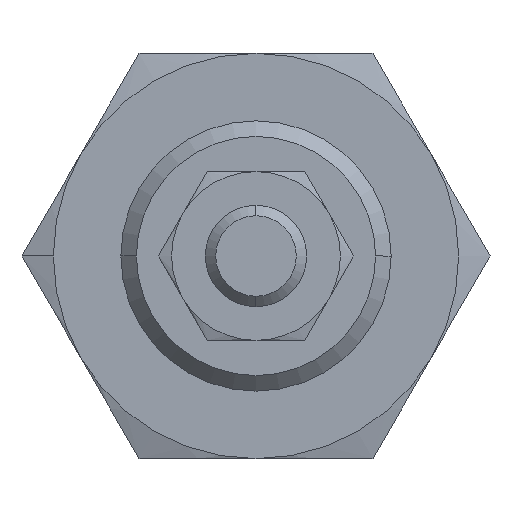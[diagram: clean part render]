
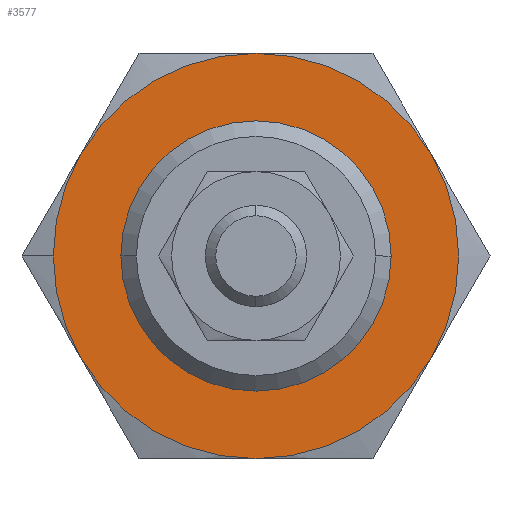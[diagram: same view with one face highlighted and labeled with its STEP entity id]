
A CAD part, left-side view. The second image highlights one B-rep face of the part: STEP entity #3577.
In plain terms, the highlighted planar face has unit normal (-1, 0, 0).
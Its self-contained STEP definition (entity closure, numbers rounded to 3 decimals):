
#1 = VERTEX_POINT ( 'NONE', #2930 ) ;
#13 = AXIS2_PLACEMENT_3D ( 'NONE', #2985, #4288, #640 ) ;
#29 = VERTEX_POINT ( 'NONE', #2954 ) ;
#86 = ORIENTED_EDGE ( 'NONE', *, *, #2826, .F. ) ;
#138 = CARTESIAN_POINT ( 'NONE',  ( -13.5, 0., 0. ) ) ;
#232 = AXIS2_PLACEMENT_3D ( 'NONE', #3024, #3438, #4085 ) ;
#251 = DIRECTION ( 'NONE',  ( 0., 1., 0. ) ) ;
#342 = AXIS2_PLACEMENT_3D ( 'NONE', #638, #658, #1661 ) ;
#613 = DIRECTION ( 'NONE',  ( 0., 1., 0. ) ) ;
#635 = ORIENTED_EDGE ( 'NONE', *, *, #1942, .F. ) ;
#638 = CARTESIAN_POINT ( 'NONE',  ( -13.5, 0., 0. ) ) ;
#640 = DIRECTION ( 'NONE',  ( 0., 1., 0. ) ) ;
#658 = DIRECTION ( 'NONE',  ( 1., 0., 0. ) ) ;
#668 = EDGE_LOOP ( 'NONE', ( #3554, #86, #1396, #635, #684, #2188, #1127 ) ) ;
#684 = ORIENTED_EDGE ( 'NONE', *, *, #2610, .F. ) ;
#1127 = ORIENTED_EDGE ( 'NONE', *, *, #3377, .F. ) ;
#1186 = CARTESIAN_POINT ( 'NONE',  ( -13.5, 12., 0. ) ) ;
#1396 = ORIENTED_EDGE ( 'NONE', *, *, #4065, .F. ) ;
#1404 = AXIS2_PLACEMENT_3D ( 'NONE', #1186, #4132, #3158 ) ;
#1413 = VERTEX_POINT ( 'NONE', #3555 ) ;
#1509 = DIRECTION ( 'NONE',  ( 1., 0., 0. ) ) ;
#1543 = AXIS2_PLACEMENT_3D ( 'NONE', #3931, #4192, #613 ) ;
#1551 = DIRECTION ( 'NONE',  ( 1., 0., 0. ) ) ;
#1651 = VERTEX_POINT ( 'NONE', #3199 ) ;
#1656 = VERTEX_POINT ( 'NONE', #2157 ) ;
#1661 = DIRECTION ( 'NONE',  ( 0., 1., 0. ) ) ;
#1782 = VERTEX_POINT ( 'NONE', #4119 ) ;
#1827 = EDGE_CURVE ( 'NONE', #3083, #1782, #3999, .T. ) ;
#1834 = FACE_BOUND ( 'NONE', #3773, .T. ) ;
#1936 = CIRCLE ( 'NONE', #3254, 12. ) ;
#1942 = EDGE_CURVE ( 'NONE', #1651, #1413, #3100, .T. ) ;
#1955 = CIRCLE ( 'NONE', #13, 12. ) ;
#2098 = CIRCLE ( 'NONE', #232, 12. ) ;
#2129 = DIRECTION ( 'NONE',  ( 1., 0., 0. ) ) ;
#2157 = CARTESIAN_POINT ( 'NONE',  ( -13.5, -8., 0. ) ) ;
#2161 = AXIS2_PLACEMENT_3D ( 'NONE', #2222, #2540, #251 ) ;
#2177 = DIRECTION ( 'NONE',  ( 0., 1., 0. ) ) ;
#2188 = ORIENTED_EDGE ( 'NONE', *, *, #4089, .F. ) ;
#2222 = CARTESIAN_POINT ( 'NONE',  ( -13.5, 0., 0. ) ) ;
#2256 = CARTESIAN_POINT ( 'NONE',  ( -13.5, 0., 0. ) ) ;
#2461 = FACE_OUTER_BOUND ( 'NONE', #668, .T. ) ;
#2482 = AXIS2_PLACEMENT_3D ( 'NONE', #2494, #1551, #3528 ) ;
#2494 = CARTESIAN_POINT ( 'NONE',  ( -13.5, 0., 0. ) ) ;
#2514 = CARTESIAN_POINT ( 'NONE',  ( -13.5, 0., 12. ) ) ;
#2540 = DIRECTION ( 'NONE',  ( 1., 0., 0. ) ) ;
#2556 = ORIENTED_EDGE ( 'NONE', *, *, #3733, .T. ) ;
#2610 = EDGE_CURVE ( 'NONE', #3045, #1651, #2098, .T. ) ;
#2709 = AXIS2_PLACEMENT_3D ( 'NONE', #138, #2129, #3454 ) ;
#2806 = PLANE ( 'NONE',  #1404 ) ;
#2826 = EDGE_CURVE ( 'NONE', #4036, #3083, #1936, .T. ) ;
#2930 = CARTESIAN_POINT ( 'NONE',  ( -13.5, 8., 0. ) ) ;
#2954 = CARTESIAN_POINT ( 'NONE',  ( -13.5, 10.392, 6. ) ) ;
#2985 = CARTESIAN_POINT ( 'NONE',  ( -13.5, 0., 0. ) ) ;
#3024 = CARTESIAN_POINT ( 'NONE',  ( -13.5, 0., 0. ) ) ;
#3045 = VERTEX_POINT ( 'NONE', #2514 ) ;
#3083 = VERTEX_POINT ( 'NONE', #3119 ) ;
#3100 = CIRCLE ( 'NONE', #3384, 12. ) ;
#3104 = CARTESIAN_POINT ( 'NONE',  ( -13.5, 0., -12. ) ) ;
#3119 = CARTESIAN_POINT ( 'NONE',  ( -13.5, 10.392, -6. ) ) ;
#3157 = CARTESIAN_POINT ( 'NONE',  ( -13.5, 0., 0. ) ) ;
#3158 = DIRECTION ( 'NONE',  ( 0., 1., 0. ) ) ;
#3190 = DIRECTION ( 'NONE',  ( 0., 1., 0. ) ) ;
#3199 = CARTESIAN_POINT ( 'NONE',  ( -13.5, -10.392, 6. ) ) ;
#3254 = AXIS2_PLACEMENT_3D ( 'NONE', #2256, #3564, #3190 ) ;
#3377 = EDGE_CURVE ( 'NONE', #1782, #29, #4219, .T. ) ;
#3384 = AXIS2_PLACEMENT_3D ( 'NONE', #3157, #1509, #2177 ) ;
#3438 = DIRECTION ( 'NONE',  ( 1., 0., 0. ) ) ;
#3454 = DIRECTION ( 'NONE',  ( 0., 1., 0. ) ) ;
#3528 = DIRECTION ( 'NONE',  ( 0., 1., 0. ) ) ;
#3554 = ORIENTED_EDGE ( 'NONE', *, *, #1827, .F. ) ;
#3555 = CARTESIAN_POINT ( 'NONE',  ( -13.5, -10.392, -6. ) ) ;
#3564 = DIRECTION ( 'NONE',  ( 1., 0., 0. ) ) ;
#3577 = ADVANCED_FACE ( 'NONE', ( #2461, #1834 ), #2806, .T. ) ;
#3655 = ORIENTED_EDGE ( 'NONE', *, *, #3700, .T. ) ;
#3691 = CIRCLE ( 'NONE', #2709, 12. ) ;
#3700 = EDGE_CURVE ( 'NONE', #1, #1656, #3895, .T. ) ;
#3733 = EDGE_CURVE ( 'NONE', #1656, #1, #3829, .T. ) ;
#3773 = EDGE_LOOP ( 'NONE', ( #2556, #3655 ) ) ;
#3829 = CIRCLE ( 'NONE', #2161, 8. ) ;
#3895 = CIRCLE ( 'NONE', #1543, 8. ) ;
#3931 = CARTESIAN_POINT ( 'NONE',  ( -13.5, 0., 0. ) ) ;
#3999 = CIRCLE ( 'NONE', #2482, 12. ) ;
#4036 = VERTEX_POINT ( 'NONE', #3104 ) ;
#4065 = EDGE_CURVE ( 'NONE', #1413, #4036, #3691, .T. ) ;
#4085 = DIRECTION ( 'NONE',  ( 0., 1., 0. ) ) ;
#4089 = EDGE_CURVE ( 'NONE', #29, #3045, #1955, .T. ) ;
#4119 = CARTESIAN_POINT ( 'NONE',  ( -13.5, 12., 0. ) ) ;
#4132 = DIRECTION ( 'NONE',  ( -1., 0., 0. ) ) ;
#4192 = DIRECTION ( 'NONE',  ( 1., 0., 0. ) ) ;
#4219 = CIRCLE ( 'NONE', #342, 12. ) ;
#4288 = DIRECTION ( 'NONE',  ( 1., 0., 0. ) ) ;
